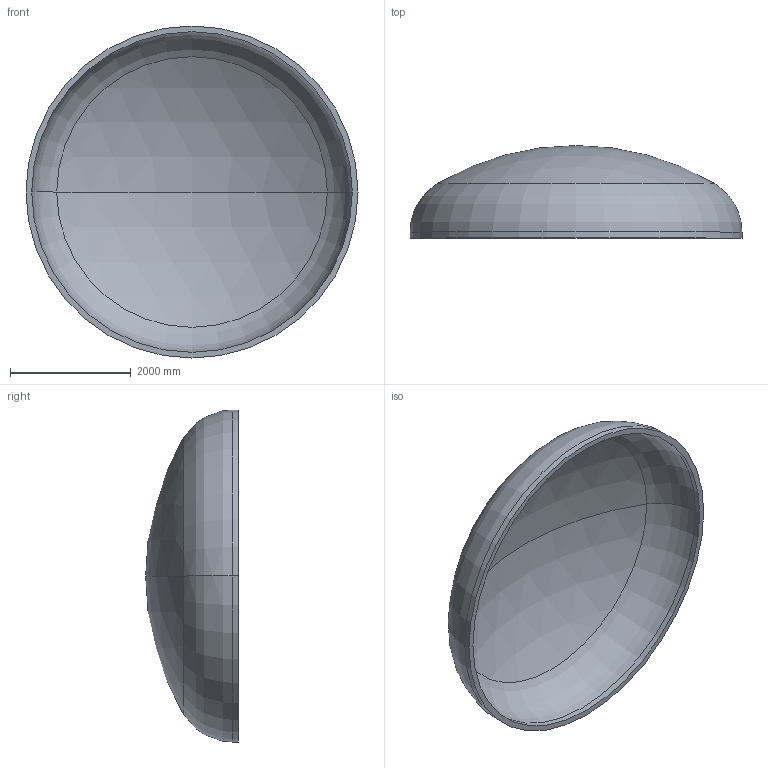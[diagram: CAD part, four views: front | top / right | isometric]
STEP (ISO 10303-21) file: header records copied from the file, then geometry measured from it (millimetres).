
FILE_DESCRIPTION (( 'STEP AP203' ), '1' );
FILE_NAME ('DIN 28013 Korbbogenform_-_Boden DIN 28013 - 5500 x 100 - I - s=94.step', '2016-07-04T10:35:04', ( '' ), ( '' ), 'SwSTEP 2.0', 'SolidWorks 2013', '' );
FILE_SCHEMA (( 'CONFIG_CONTROL_DESIGN' ));
Length unit declared in the file: millimetre
Products named in the file (1): DIN 28013 Korbbogenform_-_Boden DIN 28013 - 5500 x 100 - I - s=94
Bounding box: 5500 x 1534.87 x 5500 mm (x, y, z)
Volume: 3182343458.5 mm3; surface area: 69324360.6 mm2
Topology: 1 solids, 1 shells, 13 faces, 24 edges, 14 vertices
Faces by surface type: torus 4, cylinder 4, sphere 4, plane 1
Entity records: 407 total; most frequent: DIRECTION 72, CARTESIAN_POINT 52, ORIENTED_EDGE 48, AXIS2_PLACEMENT_3D 34, EDGE_CURVE 24, CIRCLE 20, EDGE_LOOP 14, VERTEX_POINT 14
